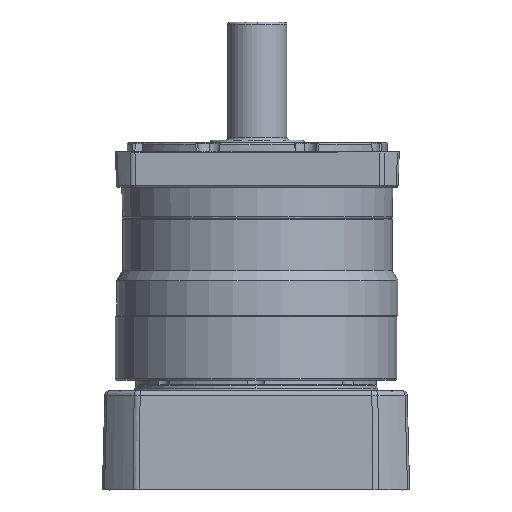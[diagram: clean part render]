
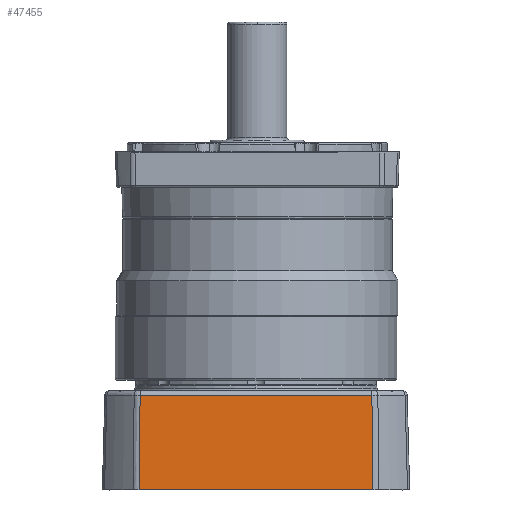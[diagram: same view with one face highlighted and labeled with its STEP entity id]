
A CAD part, front view. The second image highlights one B-rep face of the part: STEP entity #47455.
In plain terms, the highlighted planar face has unit normal (0, -1, 0.026) as drawn and (-0.026, -1, 0) by its records, which use the part's own axes.
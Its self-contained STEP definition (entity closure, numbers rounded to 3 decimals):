
#642 = DIRECTION ( 'NONE',  ( 0.026, 1., 0. ) ) ;
#4453 = DIRECTION ( 'NONE',  ( 0., 0., -1. ) ) ;
#5035 = EDGE_LOOP ( 'NONE', ( #94669, #61347, #73461, #50176 ) ) ;
#7135 = CARTESIAN_POINT ( 'NONE',  ( -46806.406, -63.951, 49.037 ) ) ;
#15052 = PLANE ( 'NONE',  #41272 ) ;
#16735 = DIRECTION ( 'NONE',  ( -1., 0.026, 0.009 ) ) ;
#17656 = VECTOR ( 'NONE', #16735, 1000. ) ;
#19563 = VECTOR ( 'NONE', #4453, 1000. ) ;
#28530 = EDGE_CURVE ( 'NONE', #42910, #48177, #41662, .T. ) ;
#29886 = CARTESIAN_POINT ( 'NONE',  ( -46766.354, -65., -49.409 ) ) ;
#36244 = DIRECTION ( 'NONE',  ( 1., -0.026, 0.009 ) ) ;
#39289 = VECTOR ( 'NONE', #36244, 1000. ) ;
#40526 = CARTESIAN_POINT ( 'NONE',  ( -46766.354, -65., 49.409 ) ) ;
#41057 = CARTESIAN_POINT ( 'NONE',  ( -46766.354, -65., 50.806 ) ) ;
#41272 = AXIS2_PLACEMENT_3D ( 'NONE', #44914, #642, #52340 ) ;
#41662 = LINE ( 'NONE', #41057, #19563 ) ;
#42910 = VERTEX_POINT ( 'NONE', #40526 ) ;
#43527 = DIRECTION ( 'NONE',  ( 0., 0., 1. ) ) ;
#44914 = CARTESIAN_POINT ( 'NONE',  ( -46766.354, -65., 50.806 ) ) ;
#46479 = VERTEX_POINT ( 'NONE', #65928 ) ;
#47455 = ADVANCED_FACE ( 'NONE', ( #79891 ), #15052, .F. ) ;
#48177 = VERTEX_POINT ( 'NONE', #29886 ) ;
#50176 = ORIENTED_EDGE ( 'NONE', *, *, #28530, .F. ) ;
#50958 = CARTESIAN_POINT ( 'NONE',  ( -46806.406, -63.951, 50.806 ) ) ;
#51417 = LINE ( 'NONE', #50958, #88394 ) ;
#52340 = DIRECTION ( 'NONE',  ( -1., 0.026, 0. ) ) ;
#57869 = EDGE_CURVE ( 'NONE', #48177, #91739, #74584, .T. ) ;
#61347 = ORIENTED_EDGE ( 'NONE', *, *, #69659, .F. ) ;
#65928 = CARTESIAN_POINT ( 'NONE',  ( -46806.406, -63.951, 49.037 ) ) ;
#67782 = EDGE_CURVE ( 'NONE', #46479, #42910, #95783, .T. ) ;
#68055 = CARTESIAN_POINT ( 'NONE',  ( -46766.354, -65., -49.409 ) ) ;
#69659 = EDGE_CURVE ( 'NONE', #91739, #46479, #51417, .T. ) ;
#73461 = ORIENTED_EDGE ( 'NONE', *, *, #57869, .F. ) ;
#74584 = LINE ( 'NONE', #68055, #17656 ) ;
#79392 = CARTESIAN_POINT ( 'NONE',  ( -46806.406, -63.951, -49.037 ) ) ;
#79891 = FACE_OUTER_BOUND ( 'NONE', #5035, .T. ) ;
#88394 = VECTOR ( 'NONE', #43527, 1000. ) ;
#91739 = VERTEX_POINT ( 'NONE', #79392 ) ;
#94669 = ORIENTED_EDGE ( 'NONE', *, *, #67782, .F. ) ;
#95783 = LINE ( 'NONE', #7135, #39289 ) ;
